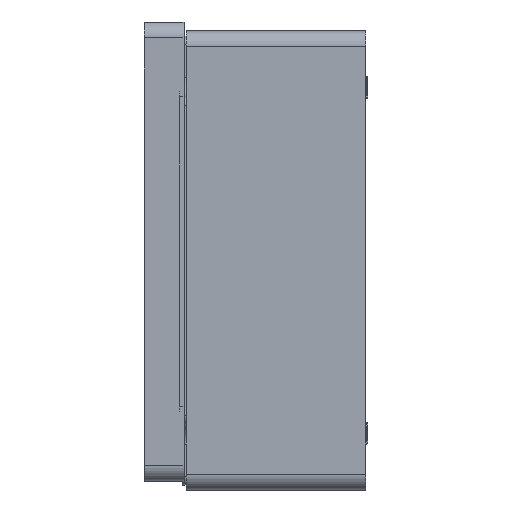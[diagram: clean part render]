
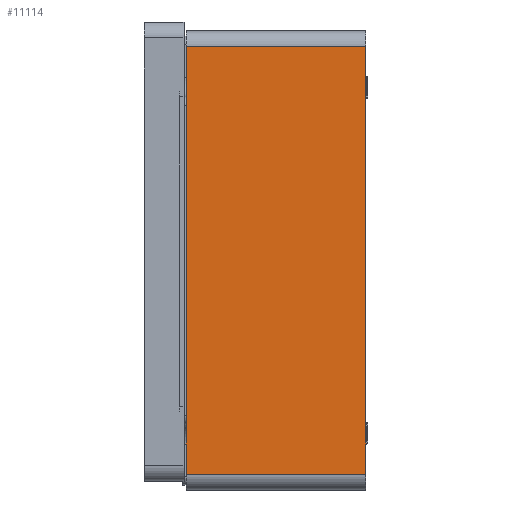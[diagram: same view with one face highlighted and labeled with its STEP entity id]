
A CAD part, left-side view. The second image highlights one B-rep face of the part: STEP entity #11114.
In plain terms, the highlighted planar face has unit normal (-1, 0, 0).
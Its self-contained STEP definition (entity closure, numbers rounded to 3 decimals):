
#348 = CARTESIAN_POINT ( 'NONE',  ( -165., 90., -107. ) ) ;
#363 = VERTEX_POINT ( 'NONE', #23761 ) ;
#1515 = CARTESIAN_POINT ( 'NONE',  ( -165., 0., 107. ) ) ;
#3820 = VECTOR ( 'NONE', #21020, 1000. ) ;
#4171 = VECTOR ( 'NONE', #27811, 1000. ) ;
#4536 = DIRECTION ( 'NONE',  ( 0., 0., -1. ) ) ;
#5543 = ORIENTED_EDGE ( 'NONE', *, *, #22707, .T. ) ;
#5864 = LINE ( 'NONE', #16550, #13985 ) ;
#6529 = VERTEX_POINT ( 'NONE', #14979 ) ;
#6658 = FACE_OUTER_BOUND ( 'NONE', #24931, .T. ) ;
#7005 = DIRECTION ( 'NONE',  ( 0., 1., 0. ) ) ;
#7970 = ORIENTED_EDGE ( 'NONE', *, *, #23036, .T. ) ;
#8606 = VERTEX_POINT ( 'NONE', #18003 ) ;
#10228 = DIRECTION ( 'NONE',  ( 0., 0., 1. ) ) ;
#11114 = ADVANCED_FACE ( 'NONE', ( #6658 ), #23961, .F. ) ;
#12675 = CARTESIAN_POINT ( 'NONE',  ( -165., 90., -115. ) ) ;
#13985 = VECTOR ( 'NONE', #10228, 1000. ) ;
#14979 = CARTESIAN_POINT ( 'NONE',  ( -165., 90., -107. ) ) ;
#15248 = DIRECTION ( 'NONE',  ( 1., 0., 0. ) ) ;
#16550 = CARTESIAN_POINT ( 'NONE',  ( -165., 0., -115. ) ) ;
#17575 = ORIENTED_EDGE ( 'NONE', *, *, #27250, .F. ) ;
#17903 = ORIENTED_EDGE ( 'NONE', *, *, #18328, .T. ) ;
#18003 = CARTESIAN_POINT ( 'NONE',  ( -165., 0., -107. ) ) ;
#18119 = LINE ( 'NONE', #18262, #20877 ) ;
#18262 = CARTESIAN_POINT ( 'NONE',  ( -165., 90., 107. ) ) ;
#18328 = EDGE_CURVE ( 'NONE', #8606, #20652, #5864, .T. ) ;
#19110 = AXIS2_PLACEMENT_3D ( 'NONE', #21853, #15248, #4536 ) ;
#20652 = VERTEX_POINT ( 'NONE', #1515 ) ;
#20877 = VECTOR ( 'NONE', #7005, 1000. ) ;
#21020 = DIRECTION ( 'NONE',  ( 0., 0., 1. ) ) ;
#21853 = CARTESIAN_POINT ( 'NONE',  ( -165., 90., -115. ) ) ;
#22707 = EDGE_CURVE ( 'NONE', #20652, #363, #18119, .T. ) ;
#23036 = EDGE_CURVE ( 'NONE', #6529, #8606, #25698, .T. ) ;
#23761 = CARTESIAN_POINT ( 'NONE',  ( -165., 90., 107. ) ) ;
#23961 = PLANE ( 'NONE',  #19110 ) ;
#24931 = EDGE_LOOP ( 'NONE', ( #17903, #5543, #17575, #7970 ) ) ;
#25698 = LINE ( 'NONE', #348, #4171 ) ;
#27250 = EDGE_CURVE ( 'NONE', #6529, #363, #27619, .T. ) ;
#27619 = LINE ( 'NONE', #12675, #3820 ) ;
#27811 = DIRECTION ( 'NONE',  ( 0., -1., 0. ) ) ;
